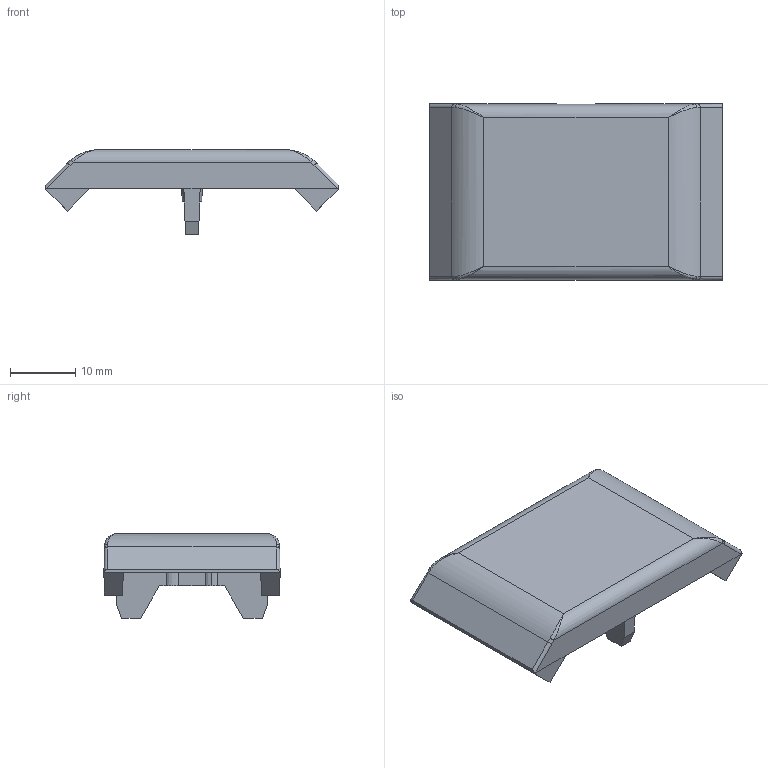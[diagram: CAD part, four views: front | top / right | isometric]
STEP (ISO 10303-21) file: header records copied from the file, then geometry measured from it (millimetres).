
FILE_DESCRIPTION (( 'STEP AP214' ), '1' );
FILE_NAME ('093wa303.STEP', '2013-05-17T08:19:48', ( 'User' ), ( '' ), 'SwSTEP 2.0', 'SolidWorks 2012', '' );
FILE_SCHEMA (( 'AUTOMOTIVE_DESIGN' ));
Length unit declared in the file: millimetre
Products named in the file (1): 093wa303
Bounding box: 45 x 27 x 13 mm (x, y, z)
Volume: 4688.5 mm3; surface area: 3678.3 mm2
Topology: 1 solids, 1 shells, 74 faces, 200 edges, 124 vertices
Faces by surface type: plane 50, cylinder 10, bspline 8, cone 6
Entity records: 2474 total; most frequent: CARTESIAN_POINT 731, ORIENTED_EDGE 392, DIRECTION 310, EDGE_CURVE 196, VECTOR 136, LINE 136, VERTEX_POINT 124, AXIS2_PLACEMENT_3D 87
